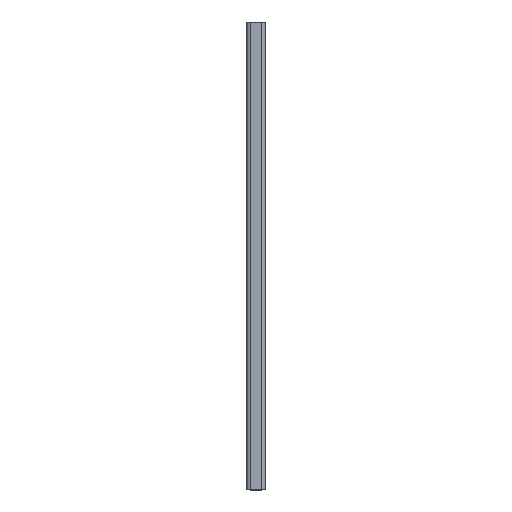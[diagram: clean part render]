
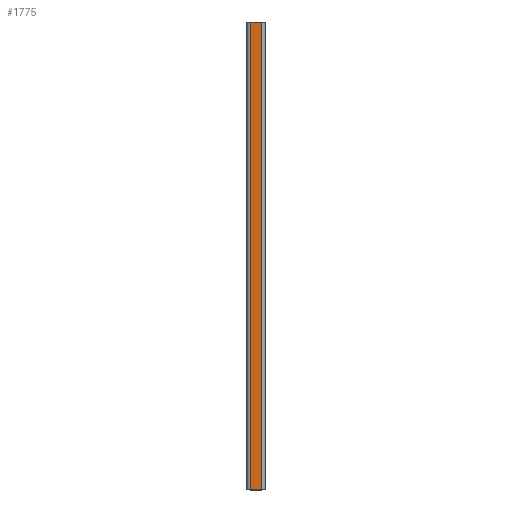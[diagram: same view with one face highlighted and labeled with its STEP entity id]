
A CAD part, top view. The second image highlights one B-rep face of the part: STEP entity #1775.
In plain terms, the highlighted planar face has unit normal (0, 0, 1).
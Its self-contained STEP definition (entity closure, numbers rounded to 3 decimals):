
#50 = DIRECTION ( 'NONE',  ( 0., -1., 0. ) ) ;
#51 = CARTESIAN_POINT ( 'NONE',  ( 3.5, 232.25, 19. ) ) ;
#52 = LINE ( 'NONE', #51, #1113 ) ;
#53 = DIRECTION ( 'NONE',  ( 0., -1., 0. ) ) ;
#54 = CARTESIAN_POINT ( 'NONE',  ( 15., 232.25, 19. ) ) ;
#55 = LINE ( 'NONE', #54, #1114 ) ;
#241 = CARTESIAN_POINT ( 'NONE',  ( 3.5, -232.25, 19. ) ) ;
#331 = CARTESIAN_POINT ( 'NONE',  ( 3.5, 232.25, 19. ) ) ;
#335 = CARTESIAN_POINT ( 'NONE',  ( 15., -232.25, 19. ) ) ;
#337 = CARTESIAN_POINT ( 'NONE',  ( 15., 232.25, 19. ) ) ;
#549 = ORIENTED_EDGE ( 'NONE', *, *, #1595, .T. ) ;
#551 = ORIENTED_EDGE ( 'NONE', *, *, #1594, .F. ) ;
#552 = ORIENTED_EDGE ( 'NONE', *, *, #1729, .T. ) ;
#554 = ORIENTED_EDGE ( 'NONE', *, *, #1722, .F. ) ;
#800 = VERTEX_POINT ( 'NONE', #337 ) ;
#802 = VERTEX_POINT ( 'NONE', #335 ) ;
#806 = VERTEX_POINT ( 'NONE', #331 ) ;
#928 = AXIS2_PLACEMENT_3D ( 'NONE', #2155, #2154, #2153 ) ;
#934 = FACE_OUTER_BOUND ( 'NONE', #1450, .T. ) ;
#979 = VECTOR ( 'NONE', #2292, 1000. ) ;
#985 = VECTOR ( 'NONE', #2313, 1000. ) ;
#1113 = VECTOR ( 'NONE', #50, 1000. ) ;
#1114 = VECTOR ( 'NONE', #53, 1000. ) ;
#1368 = VERTEX_POINT ( 'NONE', #241 ) ;
#1450 = EDGE_LOOP ( 'NONE', ( #552, #551, #554, #549 ) ) ;
#1594 = EDGE_CURVE ( 'NONE', #800, #802, #55, .T. ) ;
#1595 = EDGE_CURVE ( 'NONE', #806, #1368, #52, .T. ) ;
#1722 = EDGE_CURVE ( 'NONE', #806, #800, #2315, .T. ) ;
#1729 = EDGE_CURVE ( 'NONE', #1368, #802, #2294, .T. ) ;
#1775 = ADVANCED_FACE ( 'NONE', ( #934 ), #2156, .F. ) ;
#2153 = DIRECTION ( 'NONE',  ( -1., 0., 0. ) ) ;
#2154 = DIRECTION ( 'NONE',  ( 0., 0., -1. ) ) ;
#2155 = CARTESIAN_POINT ( 'NONE',  ( 0., 232.25, 19. ) ) ;
#2156 = PLANE ( 'NONE',  #928 ) ;
#2292 = DIRECTION ( 'NONE',  ( 1., 0., 0. ) ) ;
#2293 = CARTESIAN_POINT ( 'NONE',  ( 0., -232.25, 19. ) ) ;
#2294 = LINE ( 'NONE', #2293, #979 ) ;
#2313 = DIRECTION ( 'NONE',  ( 1., 0., 0. ) ) ;
#2314 = CARTESIAN_POINT ( 'NONE',  ( 0., 232.25, 19. ) ) ;
#2315 = LINE ( 'NONE', #2314, #985 ) ;
